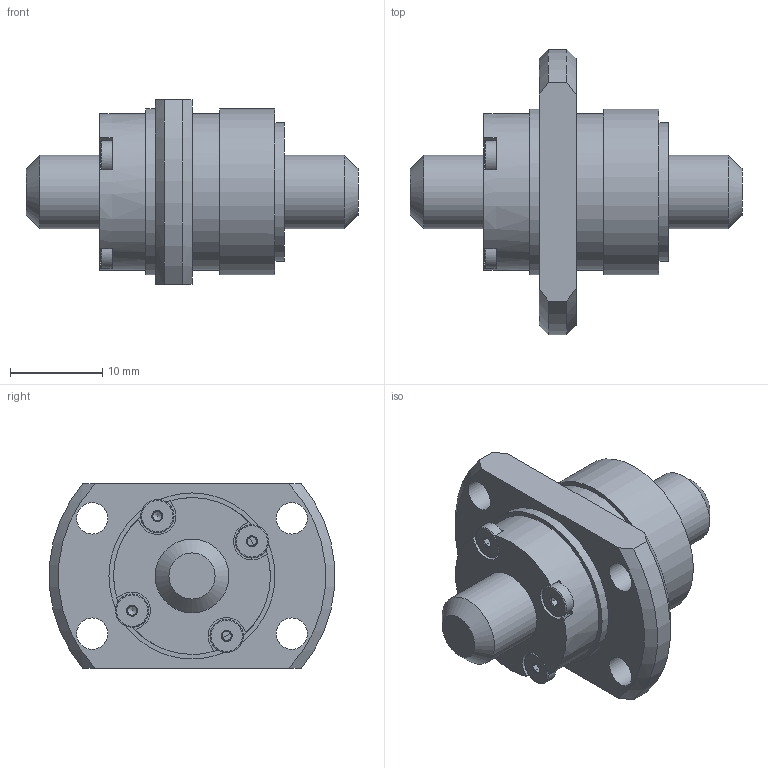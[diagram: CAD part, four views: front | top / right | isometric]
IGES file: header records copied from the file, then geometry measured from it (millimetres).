
Start section: Data from Parasolid IGES Translator 26.0.171, Copyright(c) 2006 Siemens PLM Software. All Rights Reserved.
Global section: file name: BLK0808-3.2ZZG1+36LC3_N0_1300.igs; native system: By Siemens PLM Incorporated; preprocessor: XPlus GENERIC/IGES 26.0.171; author: Noname; organization: Noname; date: 20250116.070416; units: millimetre
Bounding box: 36 x 30.91 x 20 mm (x, y, z)
Surface area: 3935.3 mm2 (no closed solid volume)
Topology: 0 solids, 0 shells, 124 faces, 600 edges, 551 vertices
Faces by surface type: extrusion 79, revolution 45
